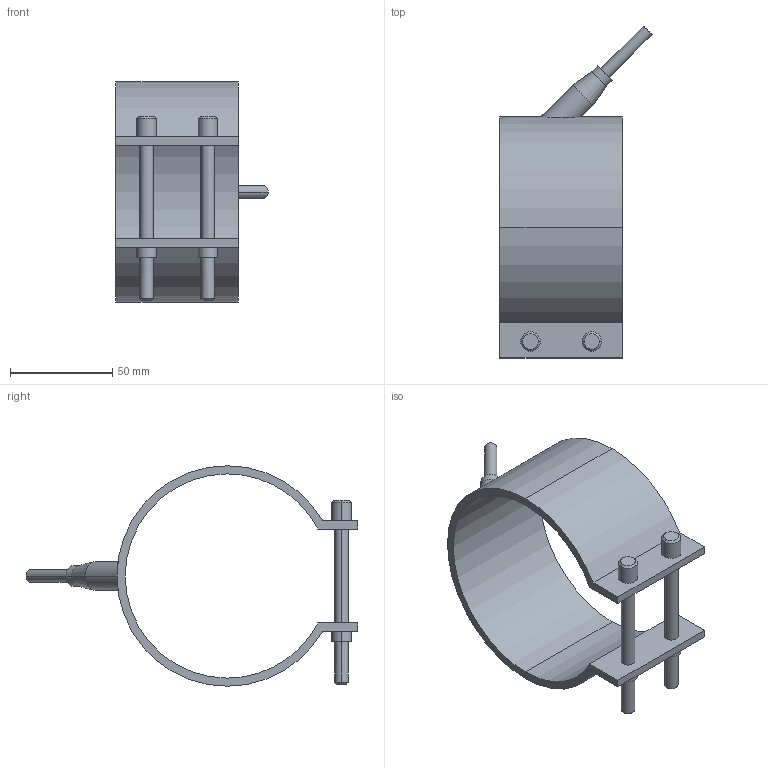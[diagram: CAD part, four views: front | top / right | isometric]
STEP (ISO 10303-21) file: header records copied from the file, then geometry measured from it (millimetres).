
FILE_DESCRIPTION(('CATIA V5 STEP Exchange'),'2;1');
FILE_NAME('C:\Users\Utente\Desktop\IO LAVORO\3D X SITO CF\X SITO\PLASTICA\RF1\29100060.stp','2021-03-29T18:18:56+00:00',('none'),('none'),'CATIA Version 5 Release 20 GA (IN-10)','CATIA V5 STEP AP203','none');
FILE_SCHEMA(('CONFIG_CONTROL_DESIGN'));
Length unit declared in the file: millimetre
Products named in the file (1): 29100060
Bounding box: 74.55 x 162.55 x 108 mm (x, y, z)
Volume: 86282.5 mm3; surface area: 45490.9 mm2
Topology: 1 solids, 1 shells, 54 faces, 121 edges, 77 vertices
Faces by surface type: cylinder 28, plane 16, cone 10
Entity records: 1686 total; most frequent: CARTESIAN_POINT 458, ORIENTED_EDGE 242, DIRECTION 216, EDGE_CURVE 121, AXIS2_PLACEMENT_3D 109, VERTEX_POINT 77, EDGE_LOOP 66, VECTOR 56
